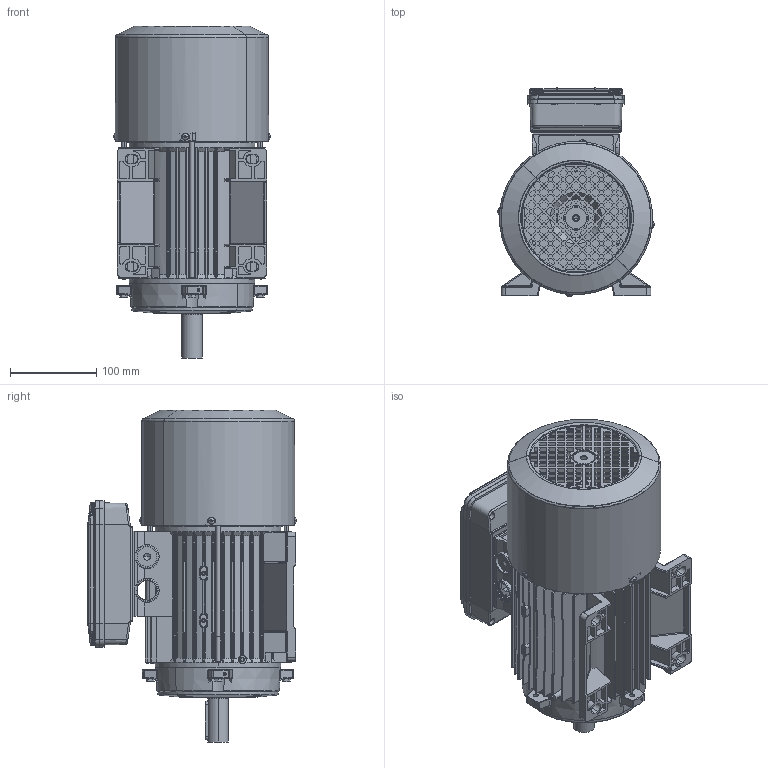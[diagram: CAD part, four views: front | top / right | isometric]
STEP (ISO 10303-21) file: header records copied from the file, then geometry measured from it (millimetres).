
FILE_DESCRIPTION (( 'STEP AP214' ), '1' );
FILE_NAME ('M14FA0010.STEP', '2019-05-10T16:03:16', ( '' ), ( '' ), 'SwSTEP 2.0', 'SolidWorks 2018', '' );
FILE_SCHEMA (( 'AUTOMOTIVE_DESIGN' ));
Length unit declared in the file: millimetre
Products named in the file (15): Coperchio per Scatola per Morsettiera Doppia 90-100-112; Scatola per Morsettiera Doppia 90-100-112; Vite testa rotonda M3; Dado M5; Tirante SM 90S; Chiavetta 90; Albero BM 90 S; Cuffia BM 90- DDAS0197; Scudo Lato Freno BM 90 P1; Scudo Lato Comando B3 BA-BM 90 - DDAD0094; Carcassa 90 L B3; M14FA0010; Scatola per Morsettiera Doppia 90-100-112 - Completa; Guarnizione Coperchio Semplice Scatola BA 90 100 112 - DDAL0094; Vite per coperchio morsettiera
Assembly tree (26 placements, depth 3):
  M14FA0010
    Carcassa 90 L B3
    Scudo Lato Comando B3 BA-BM 90 - DDAD0094
    Scudo Lato Freno BM 90 P1
    Cuffia BM 90- DDAS0197
    Albero BM 90 S
    Chiavetta 90
    Tirante SM 90S  x4
    Dado M5  x4
    Vite testa rotonda M3  x4
    Scatola per Morsettiera Doppia 90-100-112 - Completa
      Scatola per Morsettiera Doppia 90-100-112
      Coperchio per Scatola per Morsettiera Doppia 90-100-112
      Vite per coperchio morsettiera  x4
      Guarnizione Coperchio Semplice Scatola BA 90 100 112 - DDAL0094
Bounding box: 181.66 x 242.33 x 385.5 mm (x, y, z)
Volume: 1375463.4 mm3; surface area: 859538.6 mm2
Topology: 29 solids, 29 shells, 4445 faces, 11952 edges, 7603 vertices
Faces by surface type: cylinder 1664, plane 1652, bspline 401, torus 397, cone 309, sphere 22
Entity records: 148089 total; most frequent: CARTESIAN_POINT 50363, ORIENTED_EDGE 21422, DIRECTION 18721, EDGE_CURVE 10711, AXIS2_PLACEMENT_3D 6869, VERTEX_POINT 6865, LINE 4983, VECTOR 4983
